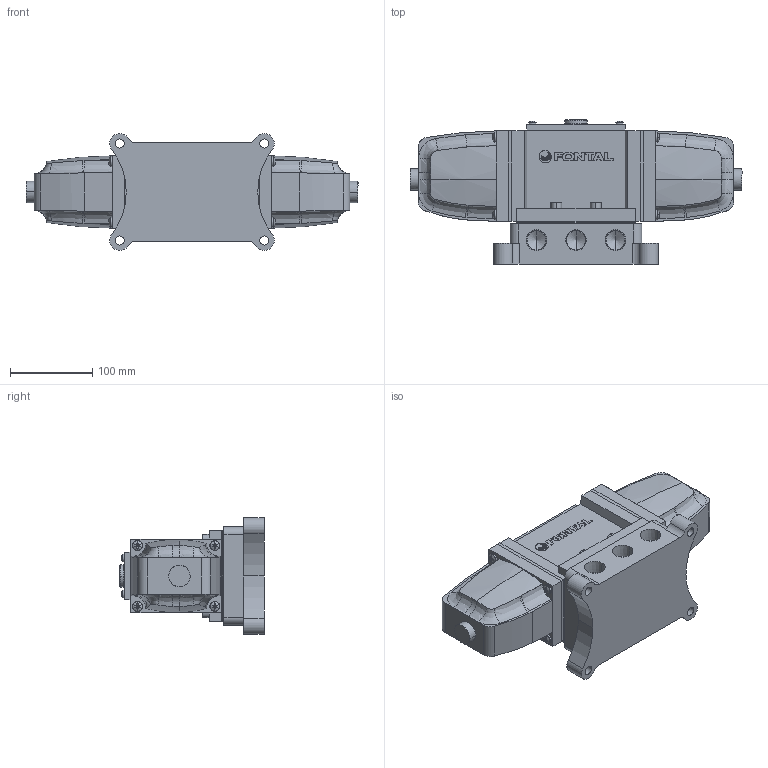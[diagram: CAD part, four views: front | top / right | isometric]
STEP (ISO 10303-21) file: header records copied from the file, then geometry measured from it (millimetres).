
FILE_DESCRIPTION (( 'STEP AP203' ), '1' );
FILE_NAME ('AD2425-06-##.STEP', '2016-03-09T03:24:28', ( 'Sam Lin' ), ( '' ), 'SwSTEP 2.0', 'SolidWorks 2013', '' );
FILE_SCHEMA (( 'CONFIG_CONTROL_DESIGN' ));
Length unit declared in the file: metre
Products named in the file (12): ISO 4762 M8 x 30; AS2425-1; ISO 7045 - M5 x 16; A25-MARK-2415; AS2425-6=AD; AS2325-2; AD2425-06-##; AS2325-3; ISO 7045 - M6 x 20; AS2310-4; AS2425-4; AS2425-5
Assembly tree (26 placements, depth 2):
  AD2425-06-##
    AS2425-1
    A25-MARK-2415
    AS2325-2  x2
    AS2325-3  x2
    ISO 7045 - M6 x 20  x8
    AS2310-4
    AS2425-4
    AS2425-5
    ISO 4762 M8 x 30  x4
    ISO 7045 - M5 x 16  x4
    AS2425-6=AD
Bounding box: 403.8 x 175.5 x 142 mm (x, y, z)
Volume: 4071420 mm3; surface area: 392950.6 mm2
Topology: 32 solids, 32 shells, 879 faces, 2200 edges, 1378 vertices
Faces by surface type: plane 443, cylinder 186, bspline 126, cone 108, torus 16
Entity records: 16013 total; most frequent: CARTESIAN_POINT 5083, ORIENTED_EDGE 1950, DIRECTION 1858, EDGE_CURVE 975, AXIS2_PLACEMENT_3D 663, VERTEX_POINT 633, VECTOR 532, LINE 532
